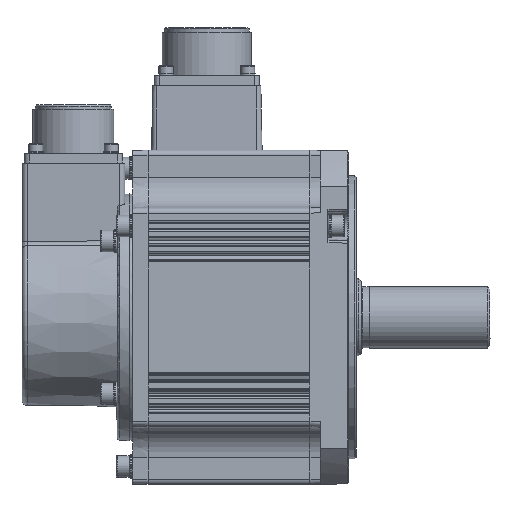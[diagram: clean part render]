
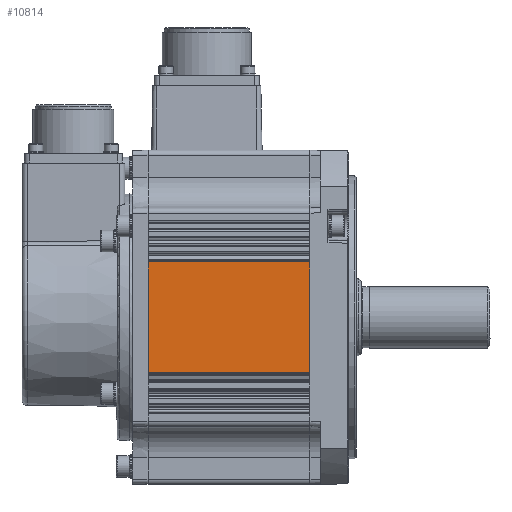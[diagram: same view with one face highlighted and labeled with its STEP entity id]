
A CAD part, left-side view. The second image highlights one B-rep face of the part: STEP entity #10814.
In plain terms, the highlighted planar face has unit normal (-1, 0, 0).
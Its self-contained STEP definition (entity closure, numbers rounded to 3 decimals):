
#5223=CARTESIAN_POINT('',(-65.,78.,21.534));
#5224=VERTEX_POINT('',#5223);
#5429=CARTESIAN_POINT('',(-65.,78.,-21.534));
#5430=VERTEX_POINT('',#5429);
#6145=CARTESIAN_POINT('',(-65.,78.,-21.534));
#6146=DIRECTION('',(0.0,0.0,1.0));
#6147=VECTOR('',#6146,43.067);
#6148=LINE('',#6145,#6147);
#6149=EDGE_CURVE('',#5430,#5224,#6148,.T.);
#10765=CARTESIAN_POINT('',(-65.,15.,21.534));
#10766=VERTEX_POINT('',#10765);
#10767=CARTESIAN_POINT('',(-65.,78.,21.534));
#10768=DIRECTION('',(0.0,-1.0,0.0));
#10769=VECTOR('',#10768,63.0);
#10770=LINE('',#10767,#10769);
#10771=EDGE_CURVE('',#5224,#10766,#10770,.T.);
#10791=CARTESIAN_POINT('',(-65.,78.,-40.5));
#10792=DIRECTION('',(-1.0,0.0,0.0));
#10793=DIRECTION('',(0.0,0.0,1.0));
#10794=AXIS2_PLACEMENT_3D('',#10791,#10792,#10793);
#10795=PLANE('',#10794);
#10796=ORIENTED_EDGE('',*,*,#10771,.F.);
#10797=ORIENTED_EDGE('',*,*,#6149,.F.);
#10798=CARTESIAN_POINT('',(-65.,15.,-21.534));
#10799=VERTEX_POINT('',#10798);
#10800=CARTESIAN_POINT('',(-65.,15.,-21.534));
#10801=DIRECTION('',(0.0,1.0,0.0));
#10802=VECTOR('',#10801,63.0);
#10803=LINE('',#10800,#10802);
#10804=EDGE_CURVE('',#10799,#5430,#10803,.T.);
#10805=ORIENTED_EDGE('',*,*,#10804,.F.);
#10806=CARTESIAN_POINT('',(-65.,15.,21.534));
#10807=DIRECTION('',(0.0,0.0,-1.0));
#10808=VECTOR('',#10807,43.067);
#10809=LINE('',#10806,#10808);
#10810=EDGE_CURVE('',#10766,#10799,#10809,.T.);
#10811=ORIENTED_EDGE('',*,*,#10810,.F.);
#10812=EDGE_LOOP('',(#10796,#10797,#10805,#10811));
#10813=FACE_OUTER_BOUND('',#10812,.T.);
#10814=ADVANCED_FACE('',(#10813),#10795,.T.);
